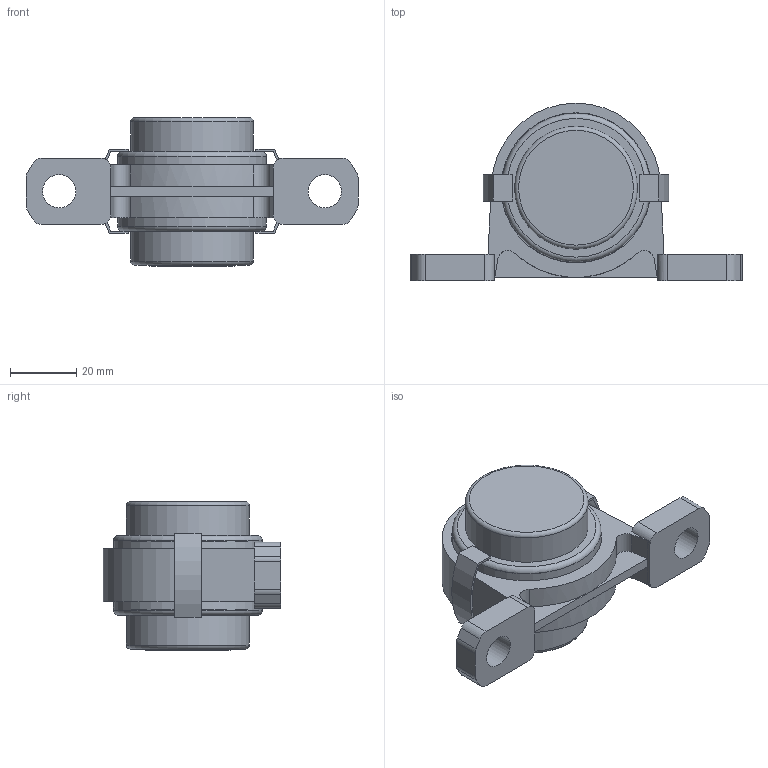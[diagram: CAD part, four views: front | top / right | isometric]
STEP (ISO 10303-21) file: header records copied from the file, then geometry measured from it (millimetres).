
FILE_DESCRIPTION((''),'2;1');
FILE_NAME('\\Ts-tgl068\j-cad-d-base\00.3DCADデータ作成フォルダ\11.エコシリーズ\MUSP000\MUSP004E.stp','2014-11-12T09:23:15',('btec_1106_2'),(''),'Autodesk Inventor 2012','Autodesk Inventor 2012','');
FILE_SCHEMA(('AUTOMOTIVE_DESIGN { 1 0 10303 214 1 1 1 1 }'));
Length unit declared in the file: millimetre
Products named in the file (6): MUSP000C; SP004; U004; 04-5CPE; 4CLP; 04-5CP20
Assembly tree (6 placements, depth 2):
  MUSP000C
    SP004
    U004
    04-5CPE
    4CLP  x2
    04-5CP20
Bounding box: 100 x 53.5 x 44.8 mm (x, y, z)
Volume: 40335.3 mm3; surface area: 31763.1 mm2
Topology: 6 solids, 6 shells, 130 faces, 301 edges, 196 vertices
Faces by surface type: plane 72, cylinder 45, torus 8, cone 3, sphere 2
Full cylindrical faces by diameter (mm): 3.5 x1, 5 x1, 10 x2, 20 x2, 25.8 x2, 27 x1, 30 x1, 36.4 x2, 37 x2, 44.2 x2, 44.8 x2, 45.2 x2
Entity records: 3490 total; most frequent: CARTESIAN_POINT 672, DIRECTION 594, ORIENTED_EDGE 468, AXIS2_PLACEMENT_3D 234, EDGE_CURVE 234, EDGE_LOOP 180, VERTEX_POINT 172, VECTOR 126
